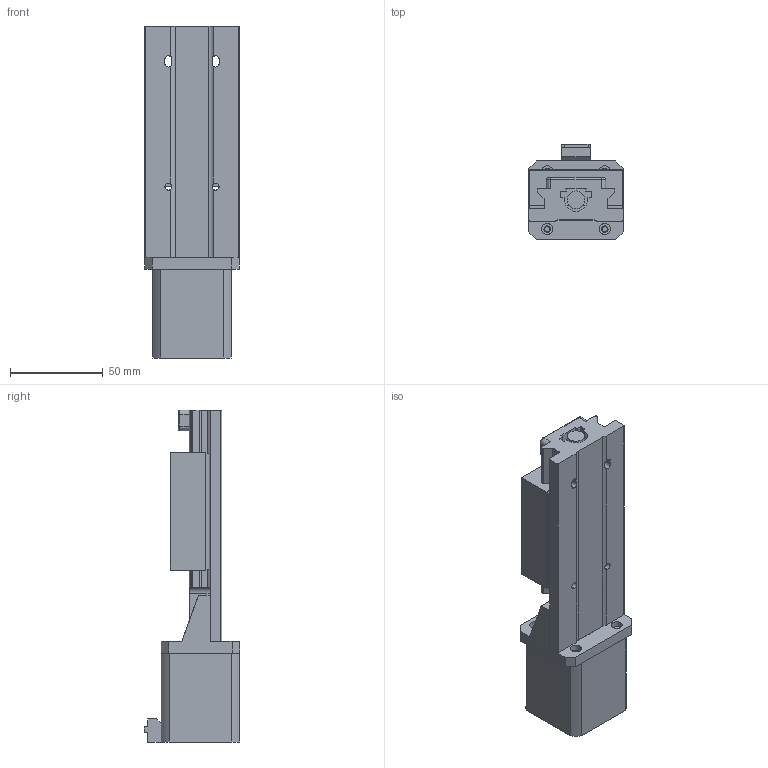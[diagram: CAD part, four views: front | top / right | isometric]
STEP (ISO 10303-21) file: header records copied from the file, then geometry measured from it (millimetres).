
FILE_DESCRIPTION (( 'STEP AP214' ), '1' );
FILE_NAME ('AMETEK-WGS06K-M-0050-01.00-001-R-43-0.9-2.33-DS-0000-CN-130-0-0.STEP', '2022-03-03T15:32:00', ( '' ), ( '' ), 'SwSTEP 2.0', 'SolidWorks 2021', '' );
FILE_SCHEMA (( 'AUTOMOTIVE_DESIGN' ));
Length unit declared in the file: inch
Products named in the file (5): Rail; Carriage; 43000_motor_DSConnector; MotorMount17_size 17; AMETEK-WGS06K-M-0050-01.00-001-R-43-0.9-2.33-DS-0000-CN-130-0-0
Assembly tree (4 placements, depth 2):
  AMETEK-WGS06K-M-0050-01.00-001-R-43-0.9-2.33-DS-0000-CN-130-0-0
    Rail
    Carriage
    43000_motor_DSConnector
    MotorMount17_size 17
Bounding box: 50.8 x 51.25 x 178.67 mm (x, y, z)
Volume: 222266.3 mm3; surface area: 65448.6 mm2
Topology: 6 solids, 6 shells, 361 faces, 986 edges, 646 vertices
Faces by surface type: plane 188, cylinder 161, cone 8, torus 4
Entity records: 12971 total; most frequent: CARTESIAN_POINT 2270, ORIENTED_EDGE 1956, DIRECTION 1952, EDGE_CURVE 978, AXIS2_PLACEMENT_3D 668, VERTEX_POINT 646, LINE 616, VECTOR 616
